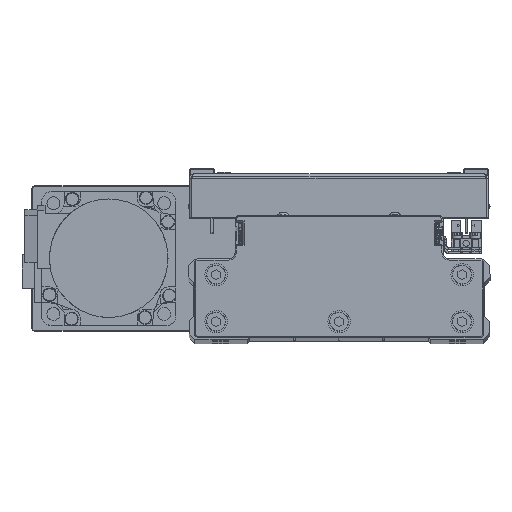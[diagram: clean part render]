
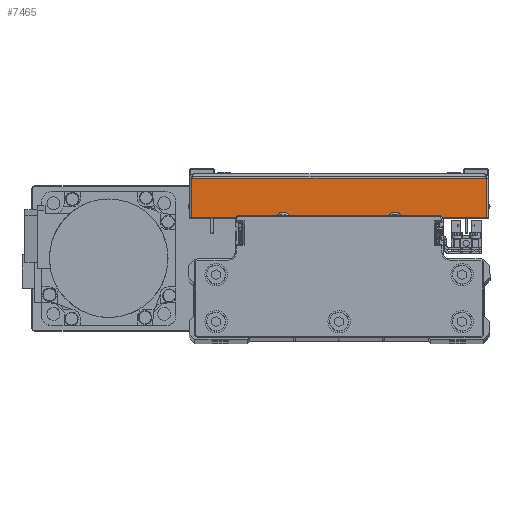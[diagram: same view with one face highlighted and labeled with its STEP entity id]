
A CAD part, top view. The second image highlights one B-rep face of the part: STEP entity #7465.
In plain terms, the highlighted planar face has unit normal (0, 0, 1) as drawn and (1, 0, 0) by its records, which use the part's own axes.
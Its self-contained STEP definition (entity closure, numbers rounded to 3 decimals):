
#2112 = EDGE_CURVE ( 'NONE', #20258, #6447, #10135, .T. ) ;
#2217 = CARTESIAN_POINT ( 'NONE',  ( 100., 18.5, 0. ) ) ;
#2360 = CARTESIAN_POINT ( 'NONE',  ( 100., 0., -65.929 ) ) ;
#4772 = ORIENTED_EDGE ( 'NONE', *, *, #38024, .F. ) ;
#6447 = VERTEX_POINT ( 'NONE', #39016 ) ;
#7465 = ADVANCED_FACE ( 'NONE', ( #28225 ), #41957, .F. ) ;
#8255 = AXIS2_PLACEMENT_3D ( 'NONE', #11112, #24849, #38587 ) ;
#9783 = CARTESIAN_POINT ( 'NONE',  ( 100., 1., -65.929 ) ) ;
#9873 = VECTOR ( 'NONE', #43662, 1000. ) ;
#10135 = LINE ( 'NONE', #23894, #40608 ) ;
#11112 = CARTESIAN_POINT ( 'NONE',  ( 100., 0., 0. ) ) ;
#13808 = CARTESIAN_POINT ( 'NONE',  ( 100., 18.5, 65.929 ) ) ;
#15959 = DIRECTION ( 'NONE',  ( 0., 0., 1. ) ) ;
#16094 = DIRECTION ( 'NONE',  ( 0., 1., 0. ) ) ;
#16188 = LINE ( 'NONE', #29926, #9873 ) ;
#16614 = VECTOR ( 'NONE', #15959, 1000. ) ;
#20170 = VECTOR ( 'NONE', #16094, 1000. ) ;
#20258 = VERTEX_POINT ( 'NONE', #9783 ) ;
#21823 = ORIENTED_EDGE ( 'NONE', *, *, #27902, .T. ) ;
#23894 = CARTESIAN_POINT ( 'NONE',  ( 100., 1., 67. ) ) ;
#24849 = DIRECTION ( 'NONE',  ( -1., 0., 0. ) ) ;
#25545 = ORIENTED_EDGE ( 'NONE', *, *, #43661, .T. ) ;
#27902 = EDGE_CURVE ( 'NONE', #39074, #31321, #33060, .T. ) ;
#28225 = FACE_OUTER_BOUND ( 'NONE', #43023, .T. ) ;
#29322 = CARTESIAN_POINT ( 'NONE',  ( 100., 18.5, -65.929 ) ) ;
#29926 = CARTESIAN_POINT ( 'NONE',  ( 100., 0., 65.929 ) ) ;
#31321 = VERTEX_POINT ( 'NONE', #13808 ) ;
#32753 = ORIENTED_EDGE ( 'NONE', *, *, #2112, .F. ) ;
#33060 = LINE ( 'NONE', #2217, #16614 ) ;
#33204 = LINE ( 'NONE', #2360, #20170 ) ;
#37620 = DIRECTION ( 'NONE',  ( 0., 0., 1. ) ) ;
#38024 = EDGE_CURVE ( 'NONE', #6447, #31321, #16188, .T. ) ;
#38587 = DIRECTION ( 'NONE',  ( 0., -1., 0. ) ) ;
#39016 = CARTESIAN_POINT ( 'NONE',  ( 100., 1., 65.929 ) ) ;
#39074 = VERTEX_POINT ( 'NONE', #29322 ) ;
#40608 = VECTOR ( 'NONE', #37620, 1000. ) ;
#41957 = PLANE ( 'NONE',  #8255 ) ;
#43023 = EDGE_LOOP ( 'NONE', ( #32753, #25545, #21823, #4772 ) ) ;
#43661 = EDGE_CURVE ( 'NONE', #20258, #39074, #33204, .T. ) ;
#43662 = DIRECTION ( 'NONE',  ( 0., 1., 0. ) ) ;
